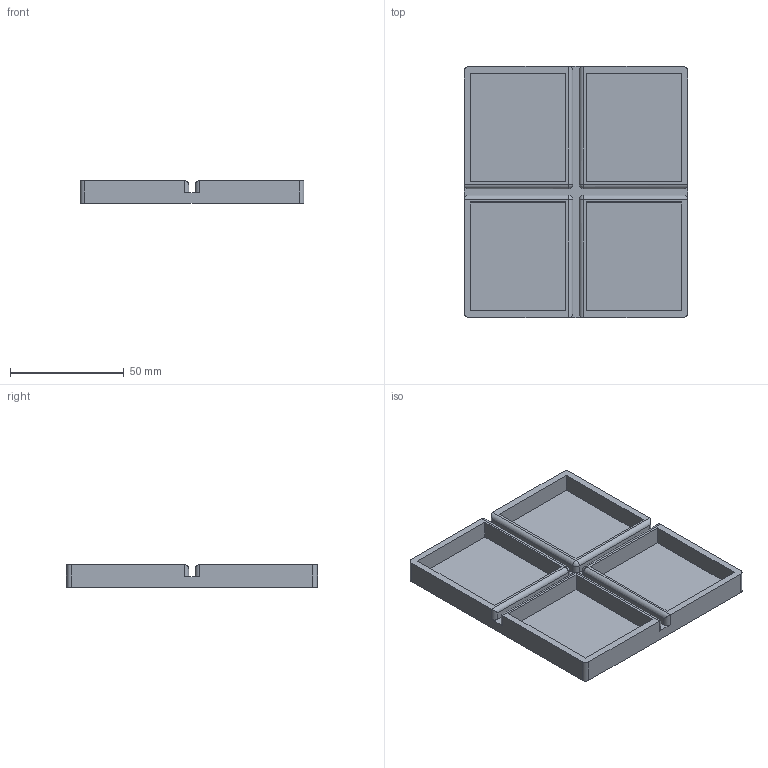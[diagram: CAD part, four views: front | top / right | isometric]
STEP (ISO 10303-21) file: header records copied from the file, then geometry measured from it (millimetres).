
FILE_DESCRIPTION(('Body'),'2;1');
FILE_NAME('Body','2026-09-11T13:10:21',('An Author'),('A Company'), 'Open CASCADE STEP processor 7.9','Dune 3D','Unknown');
FILE_SCHEMA(('AUTOMOTIVE_DESIGN { 1 0 10303 214 1 1 1 1 }'));
Length unit declared in the file: millimetre
Products named in the file (2): Token Tray Lid; Body
Assembly tree (1 placements, depth 2):
  Token Tray Lid
    Body
Bounding box: 98.4 x 110.4 x 10 mm (x, y, z)
Volume: 41154.3 mm3; surface area: 33329 mm2
Topology: 1 solids, 1 shells, 66 faces, 172 edges, 108 vertices
Faces by surface type: plane 38, cylinder 24, sphere 4
Entity records: 4301 total; most frequent: CARTESIAN_POINT 879, DIRECTION 637, LINE 412, VECTOR 412, ORIENTED_EDGE 336, PCURVE 336, DEFINITIONAL_REPRESENTATION 336, EDGE_CURVE 168
